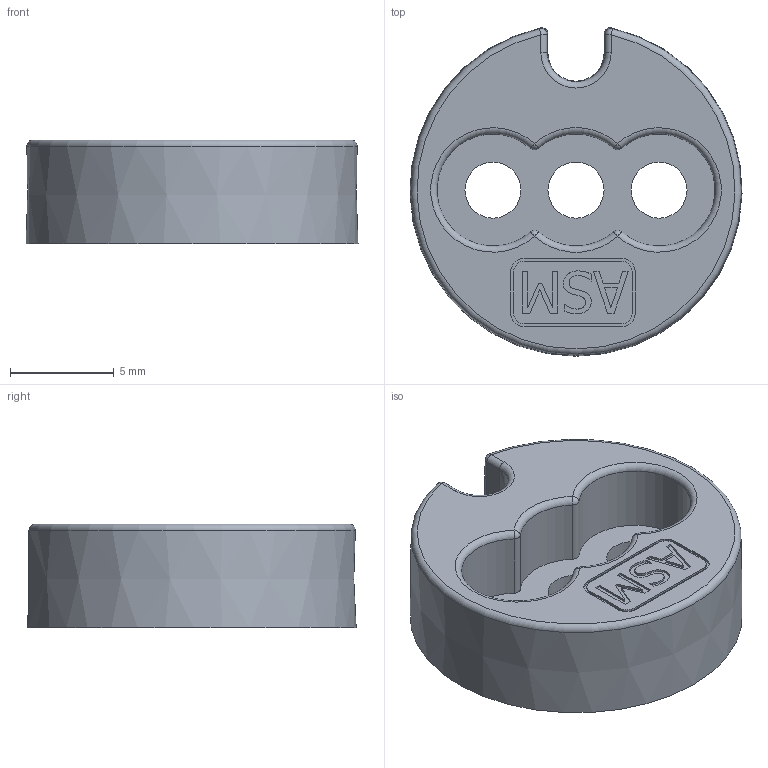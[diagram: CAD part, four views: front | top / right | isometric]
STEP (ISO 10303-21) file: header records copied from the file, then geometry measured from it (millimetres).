
FILE_DESCRIPTION((''),'2;1');
FILE_NAME('C:\Dokumente und Einstellungen\Waneck\Eigene Dateien\Waneck\Zeichnungen\Betz\Prmag21.stp','2010-06-17T09:24:17',('waneck'),(''),'Autodesk Inventor 2008','Autodesk Inventor 2008','');
FILE_SCHEMA(('AUTOMOTIVE_DESIGN { 1 0 10303 214 1 1 1 1 }'));
Length unit declared in the file: millimetre
Products named in the file (1): Bauteil15
Bounding box: 16 x 15.82 x 5 mm (x, y, z)
Volume: 722 mm3; surface area: 775.6 mm2
Topology: 1 solids, 1 shells, 104 faces, 270 edges, 169 vertices
Faces by surface type: plane 50, cylinder 22, bspline 18, sphere 6, torus 6, cone 2
Full cylindrical faces by diameter (mm): 2.7 x3
Entity records: 3412 total; most frequent: CARTESIAN_POINT 951, ORIENTED_EDGE 516, DIRECTION 460, EDGE_CURVE 258, VERTEX_POINT 166, VECTOR 154, LINE 154, AXIS2_PLACEMENT_3D 153
